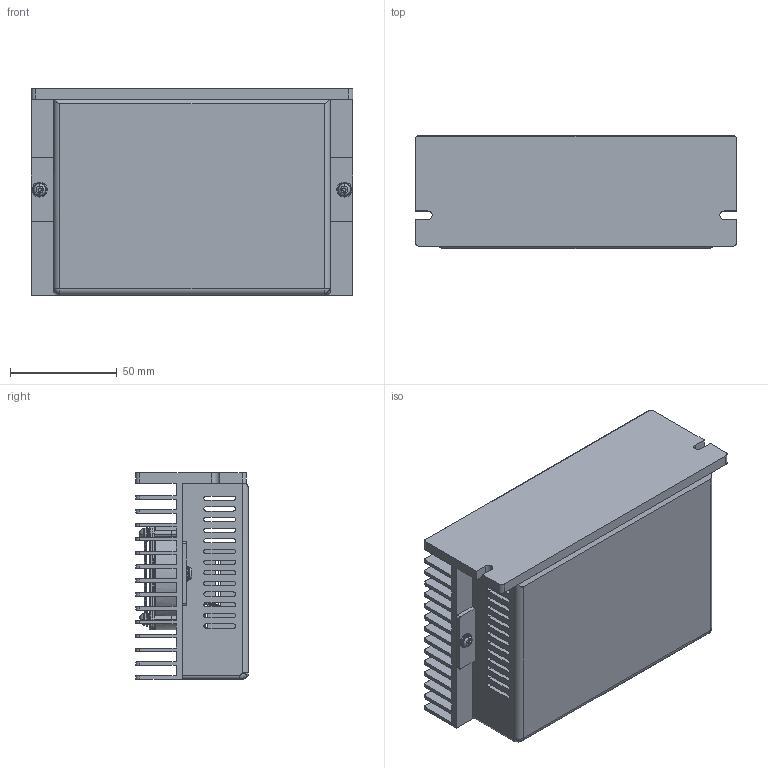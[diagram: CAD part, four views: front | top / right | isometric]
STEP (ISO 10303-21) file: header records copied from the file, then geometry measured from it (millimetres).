
FILE_DESCRIPTION((''),'2;1');
FILE_NAME('CL86C_ASM_39_ASM','2020-10-26T',('sunjun'),(''),'PRO/ENGINEER BY PARAMETRIC TECHNOLOGY CORPORATION, 2008090','PRO/ENGINEER BY PARAMETRIC TECHNOLOGY CORPORATION, 2008090','');
FILE_SCHEMA(('CONFIG_CONTROL_DESIGN'));
Length unit declared in the file: millimetre
Products named in the file (19): 232323_2; M3_1; FAN_ASEMBLY_ASM_2; ZJ_2; M3X8_GB818_9_3; D3_GB9074_26_11_2; D3_GB9074_24_14_2; M3X8_GB9074_4_ASM_2_ASM; FAN_ASM_2_ASM; CONNECTOR_5MMCLOSED6PIN_MALE_2; CONNECTOR_3_5MM6PIN_MALE_2; CONNECTOR_3_5MM4PIN_MALE_2; LED_GREEN_RED_2; HEADER_2_0_4X_1; MSK_05_G2_1; DIP_SWITCH_8PIN_VIC2_2; PCB_CL86CV20_ASM_1_ASM; GZ_CL86CV20_5; CL86C_ASM_39_ASM
Assembly tree (23 placements, depth 4):
  CL86C_ASM_39_ASM
    232323_2
    M3_1  x2
    FAN_ASM_2_ASM
      FAN_ASEMBLY_ASM_2
      ZJ_2
      M3X8_GB9074_4_ASM_2_ASM  x4
        M3X8_GB818_9_3
        D3_GB9074_26_11_2
        D3_GB9074_24_14_2
    PCB_CL86CV20_ASM_1_ASM
      CONNECTOR_5MMCLOSED6PIN_MALE_2
      CONNECTOR_3_5MM6PIN_MALE_2  x2
      CONNECTOR_3_5MM4PIN_MALE_2
      LED_GREEN_RED_2
      HEADER_2_0_4X_1
      MSK_05_G2_1
      DIP_SWITCH_8PIN_VIC2_2
    GZ_CL86CV20_5
Bounding box: 151 x 53 x 97 mm (x, y, z)
Volume: 193017.1 mm3; surface area: 194350.6 mm2
Topology: 25 solids, 66 shells, 3809 faces, 10262 edges, 6630 vertices
Faces by surface type: plane 2735, cylinder 562, bspline 263, torus 162, cone 33, extrusion 28, sphere 14, revolution 12
Entity records: 125876 total; most frequent: CARTESIAN_POINT 50709, ORIENTED_EDGE 16253, DIRECTION 13903, EDGE_CURVE 8315, VECTOR 5891, LINE 5863, VERTEX_POINT 5399, AXIS2_PLACEMENT_3D 4000
